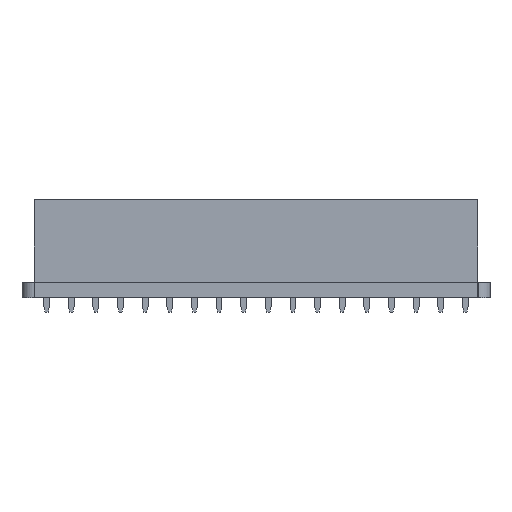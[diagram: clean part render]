
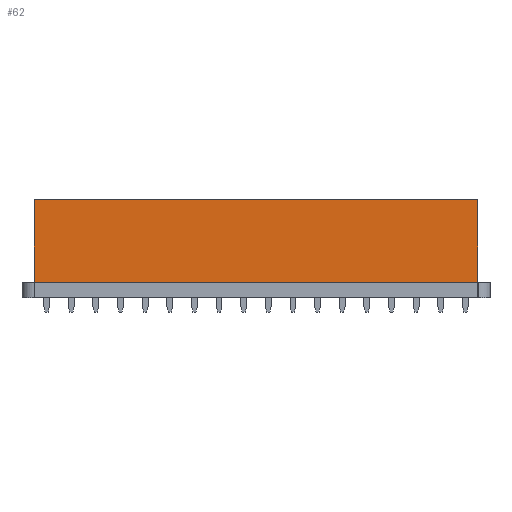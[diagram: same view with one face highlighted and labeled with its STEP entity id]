
A CAD part, front view. The second image highlights one B-rep face of the part: STEP entity #62.
In plain terms, the highlighted planar face has unit normal (0, -1, 0) as drawn and (1, 0, 0) by its records, which use the part's own axes.
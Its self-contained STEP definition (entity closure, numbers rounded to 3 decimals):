
#62 = ADVANCED_FACE('',(#63),#97,.F.);
#63 = FACE_BOUND('',#64,.F.);
#64 = EDGE_LOOP('',(#65,#75,#83,#91));
#65 = ORIENTED_EDGE('',*,*,#66,.T.);
#66 = EDGE_CURVE('',#67,#69,#71,.T.);
#67 = VERTEX_POINT('',#68);
#68 = CARTESIAN_POINT('',(1.27,-44.45,0.));
#69 = VERTEX_POINT('',#70);
#70 = CARTESIAN_POINT('',(1.27,-44.45,8.5));
#71 = LINE('',#72,#73);
#72 = CARTESIAN_POINT('',(1.27,-44.45,0.));
#73 = VECTOR('',#74,1.);
#74 = DIRECTION('',(0.,0.,1.));
#75 = ORIENTED_EDGE('',*,*,#76,.T.);
#76 = EDGE_CURVE('',#69,#77,#79,.T.);
#77 = VERTEX_POINT('',#78);
#78 = CARTESIAN_POINT('',(1.27,1.27,8.5));
#79 = LINE('',#80,#81);
#80 = CARTESIAN_POINT('',(1.27,-44.45,8.5));
#81 = VECTOR('',#82,1.);
#82 = DIRECTION('',(0.,1.,0.));
#83 = ORIENTED_EDGE('',*,*,#84,.F.);
#84 = EDGE_CURVE('',#85,#77,#87,.T.);
#85 = VERTEX_POINT('',#86);
#86 = CARTESIAN_POINT('',(1.27,1.27,0.));
#87 = LINE('',#88,#89);
#88 = CARTESIAN_POINT('',(1.27,1.27,0.));
#89 = VECTOR('',#90,1.);
#90 = DIRECTION('',(0.,0.,1.));
#91 = ORIENTED_EDGE('',*,*,#92,.F.);
#92 = EDGE_CURVE('',#67,#85,#93,.T.);
#93 = LINE('',#94,#95);
#94 = CARTESIAN_POINT('',(1.27,-44.45,0.));
#95 = VECTOR('',#96,1.);
#96 = DIRECTION('',(0.,1.,0.));
#97 = PLANE('',#98);
#98 = AXIS2_PLACEMENT_3D('',#99,#100,#101);
#99 = CARTESIAN_POINT('',(1.27,-44.45,0.));
#100 = DIRECTION('',(-1.,0.,0.));
#101 = DIRECTION('',(0.,1.,0.));
